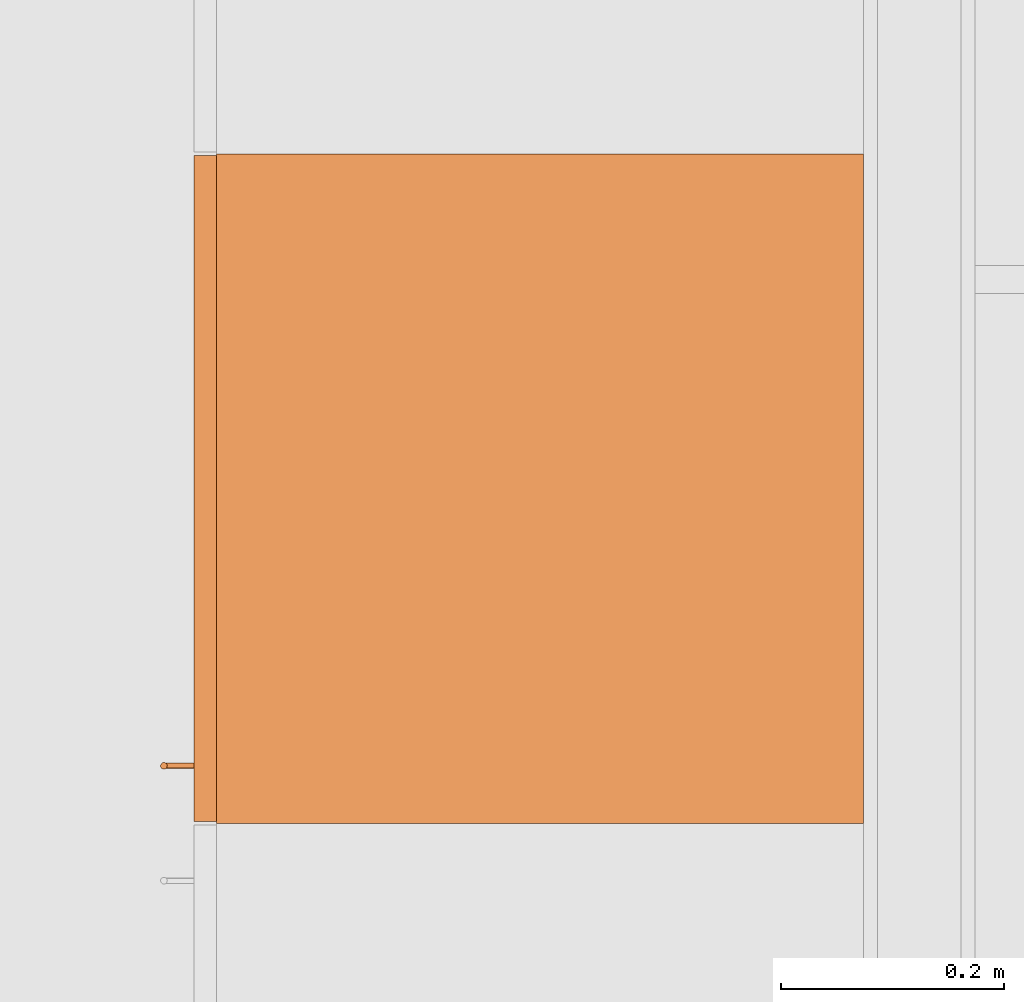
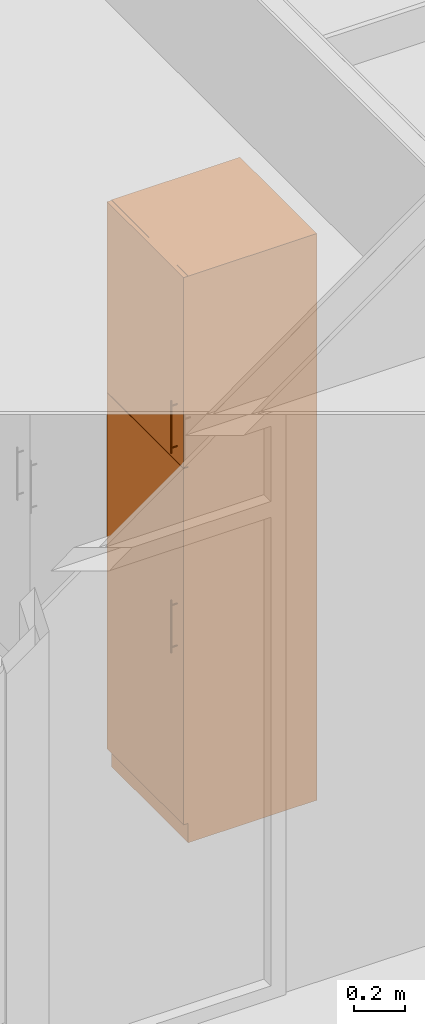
# One storey, part 83 of 167: 1 proxy.
"""IFC2X3 building model written with IfcOpenShell, lengths in millimetres."""

import ifcopenshell
import ifcopenshell.guid

model = None  # the IFC model being written
_history = None  # IfcOwnerHistory: only IFC2X3 demands one
_inside = {}  # id of a spatial element -> (the spatial element, [elements in it])
_under = {}  # id of a project, library or spatial element -> (it, [spatial elements below it])
_declared = {}  # id of a project -> (the project, [libraries it declares])
_typed = {}  # id of a type object -> (the type object, [elements of that type])
_made_of = {}  # id of a material, layer set ... -> (it, [elements and type objects made of it])


def new_model(schema):
    """Start an empty IFC model of exactly this schema.

    Asked for "IFC4X3", IfcOpenShell would pick the latest addendum, in which some entities
    have other attributes; the version numbers below select the first issue.
    IFC2X3 requires an IfcOwnerHistory on every rooted entity: one is made here for all.
    """
    global model, _history
    if schema == "IFC4X3":
        model = ifcopenshell.file(schema_version=(4, 3, 0, 0))
    else:
        model = ifcopenshell.file(schema=schema)
    _inside.clear()
    _under.clear()
    _declared.clear()
    _typed.clear()
    _made_of.clear()
    _history = None
    if model.schema == "IFC2X3":
        org = make("IfcOrganization", Name="unknown")
        user = make(
            "IfcPersonAndOrganization",
            ThePerson=make("IfcPerson", FamilyName="unknown"),
            TheOrganization=org,
        )
        app = make(
            "IfcApplication",
            ApplicationDeveloper=org,
            Version="unknown",
            ApplicationFullName="unknown",
            ApplicationIdentifier="unknown",
        )
        _history = make(
            "IfcOwnerHistory",
            OwningUser=user,
            OwningApplication=app,
            ChangeAction="ADDED",
            CreationDate=0,
        )
    return model


def make(cls, **values):
    """One entity of the class cls with the attributes given. An attribute that is None is left unset."""
    return model.create_entity(
        cls, **{name: value for name, value in values.items() if value is not None}
    )


def entity(cls, *values):
    """Any entity or typed value of the class cls, its attributes in the order of the schema. None: left unset."""
    e = model.create_entity(cls)
    for i, value in enumerate(values):
        if value is not None:
            e[i] = value
    return e


def rooted(cls, **values):
    """An entity with a GlobalId (a new one), such as an element, a storey or a relation."""
    return make(cls, GlobalId=ifcopenshell.guid.new(), OwnerHistory=_history, **values)


def si_unit(unit_type, name, prefix=None):
    """IfcSIUnit, for example si_unit("LENGTHUNIT", "METRE", prefix="MILLI")."""
    return make("IfcSIUnit", UnitType=unit_type, Prefix=prefix, Name=name)


def converted_unit(unit_type, name, factor, base, dimensions=None, offset=None):
    """IfcConversionBasedUnit, such as the inch: factor (a typed value) times the base unit."""
    return make(
        "IfcConversionBasedUnit"
        if offset is None
        else "IfcConversionBasedUnitWithOffset",
        ConversionOffset=offset,
        Dimensions=None
        if dimensions is None
        else entity("IfcDimensionalExponents", *dimensions),
        UnitType=unit_type,
        Name=name,
        ConversionFactor=make(
            "IfcMeasureWithUnit", ValueComponent=factor, UnitComponent=base
        ),
    )


def derived_unit(unit_type, elements):
    """IfcDerivedUnit: a product of units, each with its exponent."""
    return make(
        "IfcDerivedUnit",
        Elements=[
            make("IfcDerivedUnitElement", Unit=unit, Exponent=power)
            for unit, power in elements
        ],
        UnitType=unit_type,
    )


def money_unit(currency):
    """IfcMonetaryUnit."""
    return make("IfcMonetaryUnit", Currency=currency)


def assignment(units):
    """IfcUnitAssignment: the units of a project."""
    return None if units is None else make("IfcUnitAssignment", Units=units)


def point(xyz):
    """IfcCartesianPoint."""
    return None if xyz is None else make("IfcCartesianPoint", Coordinates=xyz)


def direction(xyz):
    """IfcDirection."""
    return None if xyz is None else make("IfcDirection", DirectionRatios=xyz)


def frame(location, z_axis=None, x_axis=None):
    """IfcAxis2Placement3D, a coordinate frame: its origin and axes. An axis left out is left unset."""
    return make(
        "IfcAxis2Placement3D",
        Location=point(location),
        Axis=direction(z_axis),
        RefDirection=direction(x_axis),
    )


def origin_with_axes():
    """The frame at (0, 0, 0) with the z axis (0, 0, 1) and the x axis (1, 0, 0) written out."""
    return frame((0.0, 0.0, 0.0), z_axis=(0.0, 0.0, 1.0), x_axis=(1.0, 0.0, 0.0))


def place(relative_to, where):
    """IfcLocalPlacement: puts the frame where relative to a parent placement (None: the world)."""
    return make(
        "IfcLocalPlacement", PlacementRelTo=relative_to, RelativePlacement=where
    )


def context(
    kind, dimensions, precision=None, world=None, true_north=None, identifier=None
):
    """IfcGeometricRepresentationContext, for example the 3D "Model" context."""
    return make(
        "IfcGeometricRepresentationContext",
        ContextIdentifier=identifier,
        ContextType=kind,
        CoordinateSpaceDimension=dimensions,
        Precision=precision,
        WorldCoordinateSystem=world,
        TrueNorth=true_north,
    )


def subcontext(parent, identifier, kind, view, scale=None):
    """IfcGeometricRepresentationSubContext, for example "Body" below "Model"."""
    return make(
        "IfcGeometricRepresentationSubContext",
        ContextIdentifier=identifier,
        ContextType=kind,
        ParentContext=parent,
        TargetScale=scale,
        TargetView=view,
    )


def project(units=None, contexts=None):
    """IfcProject with its units and contexts."""
    return rooted(
        "IfcProject",
        Name="project",
        RepresentationContexts=contexts,
        UnitsInContext=assignment(units),
    )


def spatial(cls, under=None, at=None, **own):
    """A site, building, storey or space (cls), placed at a placement, below another one or the project."""
    s = rooted(cls, ObjectPlacement=at, **own)
    if under is not None:
        _under.setdefault(under.id(), (under, []))[1].append(s)
    return s


def faces_of(points, faces, orient=None, outer=None):
    """IfcFace entities. A face is a list of loops; a loop is a list of indices into points, from 0.

    orient and outer hold one flag for each loop. By default every Orientation is true, the
    first loop of a face is its IfcFaceOuterBound and the others are IfcFaceBound.
    """
    made = []
    for i, loops in enumerate(faces):
        bounds = []
        for j, loop in enumerate(loops):
            is_outer = j == 0 if outer is None else outer[i][j]
            bounds.append(
                make(
                    "IfcFaceOuterBound" if is_outer else "IfcFaceBound",
                    Bound=make("IfcPolyLoop", Polygon=[points[k] for k in loop]),
                    Orientation=True if orient is None else orient[i][j],
                )
            )
        made.append(make("IfcFace", Bounds=bounds))
    return made


def open_shell(faces, orient=None, outer=None):
    """The faces of one IfcOpenShell. surface_model builds it on its shared points."""
    return ("IfcOpenShell", faces, orient, outer)


def faceted_brep(points, faces, orient=None, outer=None, voids=None):
    """IfcFacetedBrep: a solid bounded by flat faces; with voids (closed shells), ...WithVoids."""
    shared = [point(p) for p in points]
    hull = make("IfcClosedShell", CfsFaces=faces_of(shared, faces, orient, outer))
    if voids is None:
        return make("IfcFacetedBrep", Outer=hull)
    return make(
        "IfcFacetedBrepWithVoids",
        Outer=hull,
        Voids=[
            make(cls, CfsFaces=faces_of(shared, fs, o, b)) for cls, fs, o, b in voids
        ],
    )


def surface_model(cls, points, shells):
    """IfcFaceBasedSurfaceModel or IfcShellBasedSurfaceModel (cls): surfaces that need not close."""
    shared = [point(p) for p in points]
    made = [make(c, CfsFaces=faces_of(shared, fs, o, b)) for c, fs, o, b in shells]
    if cls == "IfcFaceBasedSurfaceModel":
        return make(cls, FbsmFaces=made)
    return make(cls, SbsmBoundary=made)


def shape(context_of_items, identifier, shape_type, items):
    """IfcShapeRepresentation: the items that make up one representation, for example the "Body"."""
    return make(
        "IfcShapeRepresentation",
        ContextOfItems=context_of_items,
        RepresentationIdentifier=identifier,
        RepresentationType=shape_type,
        Items=items,
    )


def source(mapping_origin, context_of_items, identifier, shape_type, items):
    """IfcRepresentationMap: a shape defined once, which mapped items show again and again."""
    return make(
        "IfcRepresentationMap",
        MappingOrigin=mapping_origin,
        MappedRepresentation=shape(context_of_items, identifier, shape_type, items),
    )


def transform(
    local_origin,
    x_axis=None,
    y_axis=None,
    z_axis=None,
    scale=None,
    scale2=None,
    scale3=None,
    uniform=True,
):
    """IfcCartesianTransformationOperator3D, or its non-uniform kind. x_axis, y_axis, z_axis: its Axis1, 2, 3."""
    if uniform:
        return make(
            "IfcCartesianTransformationOperator3D",
            Axis1=direction(x_axis),
            Axis2=direction(y_axis),
            LocalOrigin=point(local_origin),
            Scale=scale,
            Axis3=direction(z_axis),
        )
    return make(
        "IfcCartesianTransformationOperator3DnonUniform",
        Axis1=direction(x_axis),
        Axis2=direction(y_axis),
        LocalOrigin=point(local_origin),
        Scale=scale,
        Axis3=direction(z_axis),
        Scale2=scale2,
        Scale3=scale3,
    )


def mapped(mapping_source, mapping_target):
    """IfcMappedItem: shows the shape of a source again, moved by a transform."""
    return make(
        "IfcMappedItem", MappingSource=mapping_source, MappingTarget=mapping_target
    )


def made_of(thing, what):
    """Note that an element or type object is made of a material, layer set ...; save() writes the relation."""
    if what is not None:
        _made_of.setdefault(what.id(), (what, []))[1].append(thing)
    return thing


def type_object(cls, material=None, **own):
    """A type object (cls), such as IfcWallType, which elements share."""
    return made_of(rooted(cls, **own), material)


def type_shapes(of_type, sources):
    """Give a type object the sources (RepresentationMaps) that its elements show as mapped items."""
    of_type.RepresentationMaps = sources


def element(
    cls,
    number,
    at=None,
    inside=None,
    cuts=None,
    type_object=None,
    material=None,
    context=None,
    identifier="Body",
    shape_type=None,
    held_by="IfcProductDefinitionShape",
    body=None,
    shapes=None,
    **own,
):
    """One element of the class cls, such as IfcWall. Its Tag is "e" and its number.

    at: its placement. inside: the storey or other place that contains it. cuts: it is an
    opening in that element (IfcRelVoidsElement). A single representation is given by context,
    identifier, shape_type and body (its items); several are given by shapes. held_by: the class
    of the entity that holds the representations. save() writes the other relations.
    """
    e = rooted(cls, Tag="e%d" % number, ObjectPlacement=at, **own)
    if body is not None:
        shapes = [shape(context, identifier, shape_type, body)]
    if shapes is not None:
        e.Representation = make(held_by, Representations=shapes)
    if inside is not None:
        _inside.setdefault(inside.id(), (inside, []))[1].append(e)
    if cuts is not None:
        rooted(
            "IfcRelVoidsElement", RelatingBuildingElement=cuts, RelatedOpeningElement=e
        )
    if type_object is not None:
        _typed.setdefault(type_object.id(), (type_object, []))[1].append(e)
    return made_of(e, material)


def aggregate(whole, parts):
    """IfcRelAggregates: a whole, such as a stair, and the parts it consists of."""
    return rooted("IfcRelAggregates", RelatingObject=whole, RelatedObjects=parts)


def save(model, path):
    """Write the relations noted so far, then the file.

    IfcRelAggregates (storeys below a building ...), IfcRelContainedInSpatialStructure (elements
    in a storey), IfcRelDefinesByType, IfcRelAssociatesMaterial and IfcRelDeclares: one each for
    every whole, place, type object, material and project.
    """
    for whole, parts in _under.values():
        aggregate(whole, parts)
    for where, things in _inside.values():
        rooted(
            "IfcRelContainedInSpatialStructure",
            RelatedElements=things,
            RelatingStructure=where,
        )
    for kind, things in _typed.values():
        rooted("IfcRelDefinesByType", RelatedObjects=things, RelatingType=kind)
    for what, things in _made_of.values():
        rooted("IfcRelAssociatesMaterial", RelatedObjects=things, RelatingMaterial=what)
    for by, libraries in _declared.values():
        rooted("IfcRelDeclares", RelatingContext=by, RelatedDefinitions=libraries)
    model.write(path)


model = new_model("IFC2X3")

# Units and contexts
model_context = context("Model", 3, precision=0.01, world=origin_with_axes(), true_north=direction((0.0, 1.0)))
plan_context = context("Plan", 3, precision=0.01, world=origin_with_axes(), true_north=direction((0.0, 1.0)))
body_context = subcontext(model_context, "Body", "Model", "MODEL_VIEW")
ifc_project = project(units=[si_unit("LENGTHUNIT", "METRE", prefix="MILLI"), si_unit("AREAUNIT", "SQUARE_METRE"), si_unit("VOLUMEUNIT", "CUBIC_METRE"), converted_unit("PLANEANGLEUNIT", "DEGREE", entity("IfcPlaneAngleMeasure", 0.0174532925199), si_unit("PLANEANGLEUNIT", "RADIAN"), dimensions=[0, 0, 0, 0, 0, 0, 0]), si_unit("SOLIDANGLEUNIT", "STERADIAN"), money_unit("EUR"), converted_unit("TIMEUNIT", "Year", entity("IfcTimeMeasure", 31556926.0), si_unit("TIMEUNIT", "SECOND"), dimensions=[0, 0, 1, 0, 0, 0, 0]), si_unit("MASSUNIT", "GRAM", prefix="KILO"), si_unit("THERMODYNAMICTEMPERATUREUNIT", "DEGREE_CELSIUS"), si_unit("LUMINOUSINTENSITYUNIT", "LUMEN"), si_unit("ENERGYUNIT", "JOULE", prefix="MEGA"), derived_unit("THERMALCONDUCTANCEUNIT", [(si_unit("POWERUNIT", "WATT"), 1), (si_unit("LENGTHUNIT", "METRE"), -1), (si_unit("THERMODYNAMICTEMPERATUREUNIT", "KELVIN"), -1)]), derived_unit("SPECIFICHEATCAPACITYUNIT", [(si_unit("ENERGYUNIT", "JOULE"), 1), (si_unit("MASSUNIT", "GRAM", prefix="KILO"), -1), (si_unit("THERMODYNAMICTEMPERATUREUNIT", "KELVIN"), -1)]), derived_unit("MASSDENSITYUNIT", [(si_unit("MASSUNIT", "GRAM", prefix="KILO"), 1), (si_unit("VOLUMEUNIT", "CUBIC_METRE"), -1)])], contexts=[model_context, plan_context])

# Site, building, storey
site_placement = place(None, origin_with_axes())
site = spatial("IfcSite", under=ifc_project, at=site_placement, Name="Site", CompositionType="ELEMENT")
building_placement = place(site_placement, origin_with_axes())
building = spatial("IfcBuilding", under=site, at=building_placement, Name="Naam gebouw", CompositionType="ELEMENT")
storey_placement = place(building_placement, origin_with_axes())
storey = spatial("IfcBuildingStorey", under=building, at=storey_placement, Name="Begane grond", CompositionType="ELEMENT", Elevation=0.0)

# Proxy
building_element_proxy_type = type_object("IfcBuildingElementProxyType", Name="Kast hoog 1D 24", PredefinedType="NOTDEFINED")
shared_shape = source(origin_with_axes(), body_context, "Body", "SurfaceModel", [
    faceted_brep([(20.0, 20.0, 1780.0), (580.0, 20.0, 1780.0), (580.0, 20.0, 1800.0), (20.0, 20.0, 1800.0), (20.0, 580.0, 1780.0), (580.0, 580.0, 1780.0), (580.0, 580.0, 1800.0), (20.0, 580.0, 1800.0)], [[[0, 1, 2, 3]], [[0, 4, 5, 1]], [[1, 5, 6, 2]], [[3, 2, 6, 7]], [[4, 0, 3, 7]], [[5, 4, 7, 6]]]),
    faceted_brep([(0.0, 20.0, 0.0), (600.0, 20.0, 0.0), (600.0, 20.0, 90.0), (0.0, 20.0, 90.0), (0.0, 600.0, 0.0), (600.0, 600.0, 0.0), (600.0, 600.0, 90.0), (0.0, 600.0, 90.0)], [[[0, 1, 2, 3]], [[0, 4, 5, 1]], [[1, 5, 6, 2]], [[3, 2, 6, 7]], [[4, 0, 3, 7]], [[5, 4, 7, 6]]]),
    faceted_brep([(0.0, 20.0, 2680.0), (20.0, 20.0, 2680.0), (20.0, 20.0, 2700.0), (0.0, 20.0, 2700.0), (0.0, 600.0, 2680.0), (20.0, 600.0, 2680.0), (580.0, 600.0, 2680.0), (600.0, 600.0, 2680.0), (600.0, 20.0, 2680.0), (580.0, 20.0, 2680.0), (580.0, 20.0, 2700.0), (600.0, 20.0, 2700.0), (600.0, 600.0, 2700.0), (580.0, 600.0, 2700.0), (20.0, 600.0, 2700.0), (0.0, 600.0, 2700.0)], [[[0, 1, 2, 3]], [[0, 4, 5, 6, 7, 8, 9, 1]], [[1, 9, 10, 2]], [[3, 2, 10, 11, 12, 13, 14, 15]], [[4, 0, 3, 15]], [[5, 4, 15, 14]], [[6, 5, 14, 13]], [[7, 6, 13, 12]], [[8, 7, 12, 11]], [[9, 8, 11, 10]]]),
    faceted_brep([(0.0, 20.0, 90.0), (20.0, 20.0, 90.0), (20.0, 20.0, 110.0), (0.0, 20.0, 110.0), (0.0, 600.0, 90.0), (20.0, 600.0, 90.0), (580.0, 600.0, 90.0), (600.0, 600.0, 90.0), (600.0, 20.0, 90.0), (580.0, 20.0, 90.0), (580.0, 20.0, 110.0), (600.0, 20.0, 110.0), (600.0, 600.0, 110.0), (580.0, 600.0, 110.0), (20.0, 600.0, 110.0), (0.0, 600.0, 110.0)], [[[0, 1, 2, 3]], [[0, 4, 5, 6, 7, 8, 9, 1]], [[1, 9, 10, 2]], [[3, 2, 10, 11, 12, 13, 14, 15]], [[4, 0, 3, 15]], [[5, 4, 15, 14]], [[6, 5, 14, 13]], [[7, 6, 13, 12]], [[8, 7, 12, 11]], [[9, 8, 11, 10]]]),
    faceted_brep([(0.0, 20.0, 110.0), (20.0, 20.0, 110.0), (20.0, 20.0, 2680.0), (0.0, 20.0, 2680.0), (0.0, 600.0, 110.0), (600.0, 600.0, 110.0), (600.0, 20.0, 110.0), (580.0, 20.0, 110.0), (580.0, 580.0, 110.0), (20.0, 580.0, 110.0), (20.0, 580.0, 2680.0), (580.0, 580.0, 2680.0), (580.0, 20.0, 2680.0), (600.0, 20.0, 2680.0), (600.0, 600.0, 2680.0), (0.0, 600.0, 2680.0)], [[[0, 1, 2, 3]], [[0, 4, 5, 6, 7, 8, 9, 1]], [[1, 9, 10, 2]], [[3, 2, 10, 11, 12, 13, 14, 15]], [[4, 0, 3, 15]], [[5, 4, 15, 14]], [[6, 5, 14, 13]], [[7, 6, 13, 12]], [[8, 7, 12, 11]], [[9, 8, 11, 10]]]),
    faceted_brep([(580.0, 20.0, 414.0), (580.0, 580.0, 414.0), (580.0, 580.0, 434.0), (580.0, 20.0, 434.0), (20.0, 20.0, 414.0), (20.0, 580.0, 414.0), (20.0, 580.0, 434.0), (20.0, 20.0, 434.0)], [[[0, 1, 2, 3]], [[0, 4, 5, 1]], [[1, 5, 6, 2]], [[3, 2, 6, 7]], [[4, 0, 3, 7]], [[5, 4, 7, 6]]]),
    faceted_brep([(580.0, 20.0, 758.0), (580.0, 580.0, 758.0), (580.0, 580.0, 778.0), (580.0, 20.0, 778.0), (20.0, 20.0, 758.0), (20.0, 580.0, 758.0), (20.0, 580.0, 778.0), (20.0, 20.0, 778.0)], [[[0, 1, 2, 3]], [[0, 4, 5, 1]], [[1, 5, 6, 2]], [[3, 2, 6, 7]], [[4, 0, 3, 7]], [[5, 4, 7, 6]]]),
    faceted_brep([(580.0, 20.0, 1102.0), (580.0, 580.0, 1102.0), (580.0, 580.0, 1122.0), (580.0, 20.0, 1122.0), (20.0, 20.0, 1102.0), (20.0, 580.0, 1102.0), (20.0, 580.0, 1122.0), (20.0, 20.0, 1122.0)], [[[0, 1, 2, 3]], [[0, 4, 5, 1]], [[1, 5, 6, 2]], [[3, 2, 6, 7]], [[4, 0, 3, 7]], [[5, 4, 7, 6]]]),
    faceted_brep([(580.0, 20.0, 1446.0), (580.0, 580.0, 1446.0), (580.0, 580.0, 1466.0), (580.0, 20.0, 1466.0), (20.0, 20.0, 1446.0), (20.0, 580.0, 1446.0), (20.0, 580.0, 1466.0), (20.0, 20.0, 1466.0)], [[[0, 1, 2, 3]], [[0, 4, 5, 1]], [[1, 5, 6, 2]], [[3, 2, 6, 7]], [[4, 0, 3, 7]], [[5, 4, 7, 6]]]),
    faceted_brep([(1.5, 20.0, 91.5), (598.5, 20.0, 91.5), (598.5, 0.0, 91.5), (1.5, 0.0, 91.5), (1.5, 20.0, 1788.5), (598.5, 20.0, 1788.5), (598.5, 0.0, 1788.5), (1.5, 0.0, 1788.5)], [[[0, 1, 2, 3]], [[0, 4, 5, 1]], [[1, 5, 6, 2]], [[3, 2, 6, 7]], [[4, 0, 3, 7]], [[5, 4, 7, 6]]]),
    faceted_brep([(551.397777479, -27.7764571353, 891.5), (551.098076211, -28.5, 891.5), (550.621320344, -29.1213203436, 891.5), (550.0, -29.5980762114, 891.5), (549.276457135, -29.8977774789, 891.5), (548.5, -30.0, 891.5), (547.723542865, -29.8977774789, 891.5), (547.0, -29.5980762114, 891.5), (546.378679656, -29.1213203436, 891.5), (545.901923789, -28.5, 891.5), (545.602222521, -27.7764571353, 891.5), (545.5, -27.0, 891.5), (545.602222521, -26.2235428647, 891.5), (545.901923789, -25.5, 891.5), (546.378679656, -24.8786796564, 891.5), (547.0, -24.4019237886, 891.5), (547.723542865, -24.1022225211, 891.5), (548.5, -24.0, 891.5), (549.276457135, -24.1022225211, 891.5), (550.0, -24.4019237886, 891.5), (550.621320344, -24.8786796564, 891.5), (551.098076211, -25.5, 891.5), (551.397777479, -26.2235428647, 891.5), (551.5, -27.0, 891.5), (551.397777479, -27.7764571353, 1141.5), (551.098076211, -28.5, 1141.5), (550.621320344, -29.1213203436, 1141.5), (550.0, -29.5980762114, 1141.5), (549.276457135, -29.8977774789, 1141.5), (548.5, -30.0, 1141.5), (547.723542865, -29.8977774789, 1141.5), (547.0, -29.5980762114, 1141.5), (546.378679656, -29.1213203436, 1141.5), (545.901923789, -28.5, 1141.5), (545.602222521, -27.7764571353, 1141.5), (545.5, -27.0, 1141.5), (545.602222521, -26.2235428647, 1141.5), (545.901923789, -25.5, 1141.5), (546.378679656, -24.8786796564, 1141.5), (547.0, -24.4019237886, 1141.5), (547.723542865, -24.1022225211, 1141.5), (548.5, -24.0, 1141.5), (549.276457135, -24.1022225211, 1141.5), (550.0, -24.4019237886, 1141.5), (550.621320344, -24.8786796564, 1141.5), (551.098076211, -25.5, 1141.5), (551.397777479, -26.2235428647, 1141.5), (551.5, -27.0, 1141.5)], [[[0, 1, 2, 3, 4, 5, 6, 7, 8, 9, 10, 11, 12, 13, 14, 15, 16, 17, 18, 19, 20, 21, 22, 23]], [[1, 0, 24, 25]], [[2, 1, 25, 26]], [[3, 2, 26, 27]], [[4, 3, 27, 28]], [[5, 4, 28, 29]], [[6, 5, 29, 30]], [[7, 6, 30, 31]], [[8, 7, 31, 32]], [[9, 8, 32, 33]], [[10, 9, 33, 34]], [[11, 10, 34, 35]], [[12, 11, 35, 36]], [[13, 12, 36, 37]], [[14, 13, 37, 38]], [[15, 14, 38, 39]], [[16, 15, 39, 40]], [[17, 16, 40, 41]], [[18, 17, 41, 42]], [[19, 18, 42, 43]], [[20, 19, 43, 44]], [[21, 20, 44, 45]], [[22, 21, 45, 46]], [[23, 22, 46, 47]], [[0, 23, 47, 24]], [[24, 47, 46, 45, 44, 43, 42, 41, 40, 39, 38, 37, 36, 35, 34, 33, 32, 31, 30, 29, 28, 27, 26, 25]]]),
    surface_model("IfcShellBasedSurfaceModel", [(549.147047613, -24.070609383, 914.085185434), (548.5, -24.0, 914.0), (548.5, 0.0, 914.0), (549.147047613, 0.0, 914.085185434), (547.852952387, -24.070609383, 914.085185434), (547.852952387, 0.0, 914.085185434), (547.25, 0.0, 914.334936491), (546.732233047, 0.0, 914.732233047), (546.334936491, 0.0, 915.25), (546.085185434, 0.0, 915.852952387), (546.0, 0.0, 916.5), (546.085185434, 0.0, 917.147047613), (546.334936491, 0.0, 917.75), (546.732233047, 0.0, 918.267766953), (547.25, 0.0, 918.665063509), (547.852952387, 0.0, 918.914814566), (548.5, 0.0, 919.0), (549.147047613, 0.0, 918.914814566), (549.75, 0.0, 918.665063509), (550.267766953, 0.0, 918.267766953), (550.665063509, 0.0, 917.75), (550.914814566, 0.0, 917.147047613), (551.0, 0.0, 916.5), (550.914814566, 0.0, 915.852952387), (550.665063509, 0.0, 915.25), (550.267766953, 0.0, 914.732233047), (549.75, 0.0, 914.334936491), (549.75, -24.2728219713, 914.334936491), (547.25, -24.2728219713, 914.334936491), (546.732233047, -24.5761600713, 914.732233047), (546.334936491, -24.9233440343, 915.25), (546.085185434, -25.2199239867, 915.852952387), (546.0, -25.3416876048, 916.5), (546.085185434, -25.2199239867, 917.147047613), (546.334936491, -24.9233440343, 917.75), (546.732233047, -24.5761600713, 918.267766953), (547.25, -24.2728219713, 918.665063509), (547.852952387, -24.070609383, 918.914814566), (548.5, -24.0, 919.0), (549.147047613, -24.070609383, 918.914814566), (549.75, -24.2728219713, 918.665063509), (550.267766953, -24.5761600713, 918.267766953), (550.665063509, -24.9233440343, 917.75), (550.914814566, -25.2199239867, 917.147047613), (551.0, -25.3416876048, 916.5), (550.914814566, -25.2199239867, 915.852952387), (550.665063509, -24.9233440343, 915.25), (550.267766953, -24.5761600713, 914.732233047)], [open_shell([[[0, 1, 2, 3]], [[1, 4, 5, 2]], [[3, 2, 5, 6, 7, 8, 9, 10, 11, 12, 13, 14, 15, 16, 17, 18, 19, 20, 21, 22, 23, 24, 25, 26]], [[27, 0, 3, 26]], [[4, 28, 6, 5]], [[28, 29, 7, 6]], [[29, 30, 8, 7]], [[30, 31, 9, 8]], [[31, 32, 10, 9]], [[32, 33, 11, 10]], [[33, 34, 12, 11]], [[34, 35, 13, 12]], [[35, 36, 14, 13]], [[36, 37, 15, 14]], [[37, 38, 16, 15]], [[38, 39, 17, 16]], [[39, 40, 18, 17]], [[40, 41, 19, 18]], [[41, 42, 20, 19]], [[42, 43, 21, 20]], [[43, 44, 22, 21]], [[44, 45, 23, 22]], [[45, 46, 24, 23]], [[46, 47, 25, 24]], [[47, 27, 26, 25]]])]),
    surface_model("IfcShellBasedSurfaceModel", [(549.147047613, -24.070609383, 1114.08518543), (548.5, -24.0, 1114.0), (548.5, 0.0, 1114.0), (549.147047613, 0.0, 1114.08518543), (547.852952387, -24.070609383, 1114.08518543), (547.852952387, 0.0, 1114.08518543), (547.25, 0.0, 1114.33493649), (546.732233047, 0.0, 1114.73223305), (546.334936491, 0.0, 1115.25), (546.085185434, 0.0, 1115.85295239), (546.0, 0.0, 1116.5), (546.085185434, 0.0, 1117.14704761), (546.334936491, 0.0, 1117.75), (546.732233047, 0.0, 1118.26776695), (547.25, 0.0, 1118.66506351), (547.852952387, 0.0, 1118.91481457), (548.5, 0.0, 1119.0), (549.147047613, 0.0, 1118.91481457), (549.75, 0.0, 1118.66506351), (550.267766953, 0.0, 1118.26776695), (550.665063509, 0.0, 1117.75), (550.914814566, 0.0, 1117.14704761), (551.0, 0.0, 1116.5), (550.914814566, 0.0, 1115.85295239), (550.665063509, 0.0, 1115.25), (550.267766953, 0.0, 1114.73223305), (549.75, 0.0, 1114.33493649), (549.75, -24.2728219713, 1114.33493649), (547.25, -24.2728219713, 1114.33493649), (546.732233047, -24.5761600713, 1114.73223305), (546.334936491, -24.9233440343, 1115.25), (546.085185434, -25.2199239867, 1115.85295239), (546.0, -25.3416876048, 1116.5), (546.085185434, -25.2199239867, 1117.14704761), (546.334936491, -24.9233440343, 1117.75), (546.732233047, -24.5761600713, 1118.26776695), (547.25, -24.2728219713, 1118.66506351), (547.852952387, -24.070609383, 1118.91481457), (548.5, -24.0, 1119.0), (549.147047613, -24.070609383, 1118.91481457), (549.75, -24.2728219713, 1118.66506351), (550.267766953, -24.5761600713, 1118.26776695), (550.665063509, -24.9233440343, 1117.75), (550.914814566, -25.2199239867, 1117.14704761), (551.0, -25.3416876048, 1116.5), (550.914814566, -25.2199239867, 1115.85295239), (550.665063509, -24.9233440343, 1115.25), (550.267766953, -24.5761600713, 1114.73223305)], [open_shell([[[0, 1, 2, 3]], [[1, 4, 5, 2]], [[3, 2, 5, 6, 7, 8, 9, 10, 11, 12, 13, 14, 15, 16, 17, 18, 19, 20, 21, 22, 23, 24, 25, 26]], [[27, 0, 3, 26]], [[4, 28, 6, 5]], [[28, 29, 7, 6]], [[29, 30, 8, 7]], [[30, 31, 9, 8]], [[31, 32, 10, 9]], [[32, 33, 11, 10]], [[33, 34, 12, 11]], [[34, 35, 13, 12]], [[35, 36, 14, 13]], [[36, 37, 15, 14]], [[37, 38, 16, 15]], [[38, 39, 17, 16]], [[39, 40, 18, 17]], [[40, 41, 19, 18]], [[41, 42, 20, 19]], [[42, 43, 21, 20]], [[43, 44, 22, 21]], [[44, 45, 23, 22]], [[45, 46, 24, 23]], [[46, 47, 25, 24]], [[47, 27, 26, 25]]])]),
    faceted_brep([(1.5, 20.0, 1791.5), (598.5, 20.0, 1791.5), (598.5, 0.0, 1791.5), (1.5, 0.0, 1791.5), (1.5, 20.0, 2698.5), (598.5, 20.0, 2698.5), (598.5, 0.0, 2698.5), (1.5, 0.0, 2698.5)], [[[0, 1, 2, 3]], [[0, 4, 5, 1]], [[1, 5, 6, 2]], [[3, 2, 6, 7]], [[4, 0, 3, 7]], [[5, 4, 7, 6]]]),
    faceted_brep([(551.397777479, -27.7764571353, 1841.5), (551.098076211, -28.5, 1841.5), (550.621320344, -29.1213203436, 1841.5), (550.0, -29.5980762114, 1841.5), (549.276457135, -29.8977774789, 1841.5), (548.5, -30.0, 1841.5), (547.723542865, -29.8977774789, 1841.5), (547.0, -29.5980762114, 1841.5), (546.378679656, -29.1213203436, 1841.5), (545.901923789, -28.5, 1841.5), (545.602222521, -27.7764571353, 1841.5), (545.5, -27.0, 1841.5), (545.602222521, -26.2235428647, 1841.5), (545.901923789, -25.5, 1841.5), (546.378679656, -24.8786796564, 1841.5), (547.0, -24.4019237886, 1841.5), (547.723542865, -24.1022225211, 1841.5), (548.5, -24.0, 1841.5), (549.276457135, -24.1022225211, 1841.5), (550.0, -24.4019237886, 1841.5), (550.621320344, -24.8786796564, 1841.5), (551.098076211, -25.5, 1841.5), (551.397777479, -26.2235428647, 1841.5), (551.5, -27.0, 1841.5), (551.397777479, -27.7764571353, 2091.5), (551.098076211, -28.5, 2091.5), (550.621320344, -29.1213203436, 2091.5), (550.0, -29.5980762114, 2091.5), (549.276457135, -29.8977774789, 2091.5), (548.5, -30.0, 2091.5), (547.723542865, -29.8977774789, 2091.5), (547.0, -29.5980762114, 2091.5), (546.378679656, -29.1213203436, 2091.5), (545.901923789, -28.5, 2091.5), (545.602222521, -27.7764571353, 2091.5), (545.5, -27.0, 2091.5), (545.602222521, -26.2235428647, 2091.5), (545.901923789, -25.5, 2091.5), (546.378679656, -24.8786796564, 2091.5), (547.0, -24.4019237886, 2091.5), (547.723542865, -24.1022225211, 2091.5), (548.5, -24.0, 2091.5), (549.276457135, -24.1022225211, 2091.5), (550.0, -24.4019237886, 2091.5), (550.621320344, -24.8786796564, 2091.5), (551.098076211, -25.5, 2091.5), (551.397777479, -26.2235428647, 2091.5), (551.5, -27.0, 2091.5)], [[[0, 1, 2, 3, 4, 5, 6, 7, 8, 9, 10, 11, 12, 13, 14, 15, 16, 17, 18, 19, 20, 21, 22, 23]], [[1, 0, 24, 25]], [[2, 1, 25, 26]], [[3, 2, 26, 27]], [[4, 3, 27, 28]], [[5, 4, 28, 29]], [[6, 5, 29, 30]], [[7, 6, 30, 31]], [[8, 7, 31, 32]], [[9, 8, 32, 33]], [[10, 9, 33, 34]], [[11, 10, 34, 35]], [[12, 11, 35, 36]], [[13, 12, 36, 37]], [[14, 13, 37, 38]], [[15, 14, 38, 39]], [[16, 15, 39, 40]], [[17, 16, 40, 41]], [[18, 17, 41, 42]], [[19, 18, 42, 43]], [[20, 19, 43, 44]], [[21, 20, 44, 45]], [[22, 21, 45, 46]], [[23, 22, 46, 47]], [[0, 23, 47, 24]], [[24, 47, 46, 45, 44, 43, 42, 41, 40, 39, 38, 37, 36, 35, 34, 33, 32, 31, 30, 29, 28, 27, 26, 25]]]),
    surface_model("IfcShellBasedSurfaceModel", [(549.147047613, -24.070609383, 1864.08518543), (548.5, -24.0, 1864.0), (548.5, 0.0, 1864.0), (549.147047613, 0.0, 1864.08518543), (547.852952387, -24.070609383, 1864.08518543), (547.852952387, 0.0, 1864.08518543), (547.25, 0.0, 1864.33493649), (546.732233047, 0.0, 1864.73223305), (546.334936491, 0.0, 1865.25), (546.085185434, 0.0, 1865.85295239), (546.0, 0.0, 1866.5), (546.085185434, 0.0, 1867.14704761), (546.334936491, 0.0, 1867.75), (546.732233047, 0.0, 1868.26776695), (547.25, 0.0, 1868.66506351), (547.852952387, 0.0, 1868.91481457), (548.5, 0.0, 1869.0), (549.147047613, 0.0, 1868.91481457), (549.75, 0.0, 1868.66506351), (550.267766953, 0.0, 1868.26776695), (550.665063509, 0.0, 1867.75), (550.914814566, 0.0, 1867.14704761), (551.0, 0.0, 1866.5), (550.914814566, 0.0, 1865.85295239), (550.665063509, 0.0, 1865.25), (550.267766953, 0.0, 1864.73223305), (549.75, 0.0, 1864.33493649), (549.75, -24.2728219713, 1864.33493649), (547.25, -24.2728219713, 1864.33493649), (546.732233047, -24.5761600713, 1864.73223305), (546.334936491, -24.9233440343, 1865.25), (546.085185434, -25.2199239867, 1865.85295239), (546.0, -25.3416876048, 1866.5), (546.085185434, -25.2199239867, 1867.14704761), (546.334936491, -24.9233440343, 1867.75), (546.732233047, -24.5761600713, 1868.26776695), (547.25, -24.2728219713, 1868.66506351), (547.852952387, -24.070609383, 1868.91481457), (548.5, -24.0, 1869.0), (549.147047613, -24.070609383, 1868.91481457), (549.75, -24.2728219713, 1868.66506351), (550.267766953, -24.5761600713, 1868.26776695), (550.665063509, -24.9233440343, 1867.75), (550.914814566, -25.2199239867, 1867.14704761), (551.0, -25.3416876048, 1866.5), (550.914814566, -25.2199239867, 1865.85295239), (550.665063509, -24.9233440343, 1865.25), (550.267766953, -24.5761600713, 1864.73223305)], [open_shell([[[0, 1, 2, 3]], [[1, 4, 5, 2]], [[3, 2, 5, 6, 7, 8, 9, 10, 11, 12, 13, 14, 15, 16, 17, 18, 19, 20, 21, 22, 23, 24, 25, 26]], [[27, 0, 3, 26]], [[4, 28, 6, 5]], [[28, 29, 7, 6]], [[29, 30, 8, 7]], [[30, 31, 9, 8]], [[31, 32, 10, 9]], [[32, 33, 11, 10]], [[33, 34, 12, 11]], [[34, 35, 13, 12]], [[35, 36, 14, 13]], [[36, 37, 15, 14]], [[37, 38, 16, 15]], [[38, 39, 17, 16]], [[39, 40, 18, 17]], [[40, 41, 19, 18]], [[41, 42, 20, 19]], [[42, 43, 21, 20]], [[43, 44, 22, 21]], [[44, 45, 23, 22]], [[45, 46, 24, 23]], [[46, 47, 25, 24]], [[47, 27, 26, 25]]])]),
    surface_model("IfcShellBasedSurfaceModel", [(549.147047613, -24.070609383, 2064.08518543), (548.5, -24.0, 2064.0), (548.5, 0.0, 2064.0), (549.147047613, 0.0, 2064.08518543), (547.852952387, -24.070609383, 2064.08518543), (547.852952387, 0.0, 2064.08518543), (547.25, 0.0, 2064.33493649), (546.732233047, 0.0, 2064.73223305), (546.334936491, 0.0, 2065.25), (546.085185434, 0.0, 2065.85295239), (546.0, 0.0, 2066.5), (546.085185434, 0.0, 2067.14704761), (546.334936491, 0.0, 2067.75), (546.732233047, 0.0, 2068.26776695), (547.25, 0.0, 2068.66506351), (547.852952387, 0.0, 2068.91481457), (548.5, 0.0, 2069.0), (549.147047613, 0.0, 2068.91481457), (549.75, 0.0, 2068.66506351), (550.267766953, 0.0, 2068.26776695), (550.665063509, 0.0, 2067.75), (550.914814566, 0.0, 2067.14704761), (551.0, 0.0, 2066.5), (550.914814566, 0.0, 2065.85295239), (550.665063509, 0.0, 2065.25), (550.267766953, 0.0, 2064.73223305), (549.75, 0.0, 2064.33493649), (549.75, -24.2728219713, 2064.33493649), (547.25, -24.2728219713, 2064.33493649), (546.732233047, -24.5761600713, 2064.73223305), (546.334936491, -24.9233440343, 2065.25), (546.085185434, -25.2199239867, 2065.85295239), (546.0, -25.3416876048, 2066.5), (546.085185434, -25.2199239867, 2067.14704761), (546.334936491, -24.9233440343, 2067.75), (546.732233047, -24.5761600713, 2068.26776695), (547.25, -24.2728219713, 2068.66506351), (547.852952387, -24.070609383, 2068.91481457), (548.5, -24.0, 2069.0), (549.147047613, -24.070609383, 2068.91481457), (549.75, -24.2728219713, 2068.66506351), (550.267766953, -24.5761600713, 2068.26776695), (550.665063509, -24.9233440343, 2067.75), (550.914814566, -25.2199239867, 2067.14704761), (551.0, -25.3416876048, 2066.5), (550.914814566, -25.2199239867, 2065.85295239), (550.665063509, -24.9233440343, 2065.25), (550.267766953, -24.5761600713, 2064.73223305)], [open_shell([[[0, 1, 2, 3]], [[1, 4, 5, 2]], [[3, 2, 5, 6, 7, 8, 9, 10, 11, 12, 13, 14, 15, 16, 17, 18, 19, 20, 21, 22, 23, 24, 25, 26]], [[27, 0, 3, 26]], [[4, 28, 6, 5]], [[28, 29, 7, 6]], [[29, 30, 8, 7]], [[30, 31, 9, 8]], [[31, 32, 10, 9]], [[32, 33, 11, 10]], [[33, 34, 12, 11]], [[34, 35, 13, 12]], [[35, 36, 14, 13]], [[36, 37, 15, 14]], [[37, 38, 16, 15]], [[38, 39, 17, 16]], [[39, 40, 18, 17]], [[40, 41, 19, 18]], [[41, 42, 20, 19]], [[42, 43, 21, 20]], [[43, 44, 22, 21]], [[44, 45, 23, 22]], [[45, 46, 24, 23]], [[46, 47, 25, 24]], [[47, 27, 26, 25]]])]),
])
type_shapes(building_element_proxy_type, [shared_shape])
proxy_placement = place(storey_placement, frame((13750.0, 5273.34783859, 0.0), z_axis=(0.0, 0.0, 1.0), x_axis=(0.0, -1.0, 0.0)))
element("IfcBuildingElementProxy", 1, at=proxy_placement, inside=storey, type_object=building_element_proxy_type, Name="__Object-x", context=body_context, shape_type="MappedRepresentation", body=[
    mapped(shared_shape, transform((0.0, 0.0, 0.0))),
])

save(model, "model.ifc")
